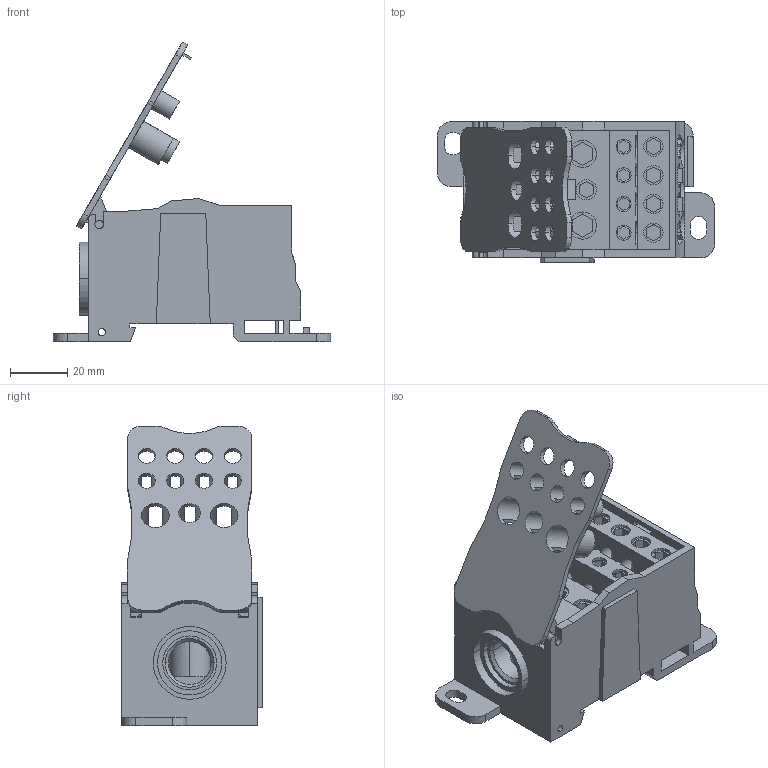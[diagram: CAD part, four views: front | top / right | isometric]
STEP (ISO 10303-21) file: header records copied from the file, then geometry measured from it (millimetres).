
FILE_DESCRIPTION (( 'STEP AP203' ), '1' );
FILE_NAME ('plc-kbr250 Áëîê ÊÁÐ íà DIN-ðåéêó è ìîíòàæíóþ ïàíåëü 250A EKF.STEP', '2017-02-20T14:08:21', ( 'kuryshev' ), ( '' ), 'SwSTEP 2.0', 'SolidWorks 2010', '' );
FILE_SCHEMA (( 'CONFIG_CONTROL_DESIGN' ));
Length unit declared in the file: millimetre
Products named in the file (1): plc-kbr250 Áëîê ÊÁÐ íà DIN-ðåéêó è ìîíòàæíóþ ïàíåëü 250A EKF
Bounding box: 96.7 x 49.1 x 104.58 mm (x, y, z)
Volume: 98828.4 mm3; surface area: 48417.9 mm2
Topology: 2 solids, 2 shells, 504 faces, 1433 edges, 946 vertices
Faces by surface type: plane 326, cylinder 175, cone 2, torus 1
Entity records: 17626 total; most frequent: CARTESIAN_POINT 4012, ORIENTED_EDGE 2866, DIRECTION 2781, EDGE_CURVE 1433, LINE 983, VECTOR 983, VERTEX_POINT 946, AXIS2_PLACEMENT_3D 899
